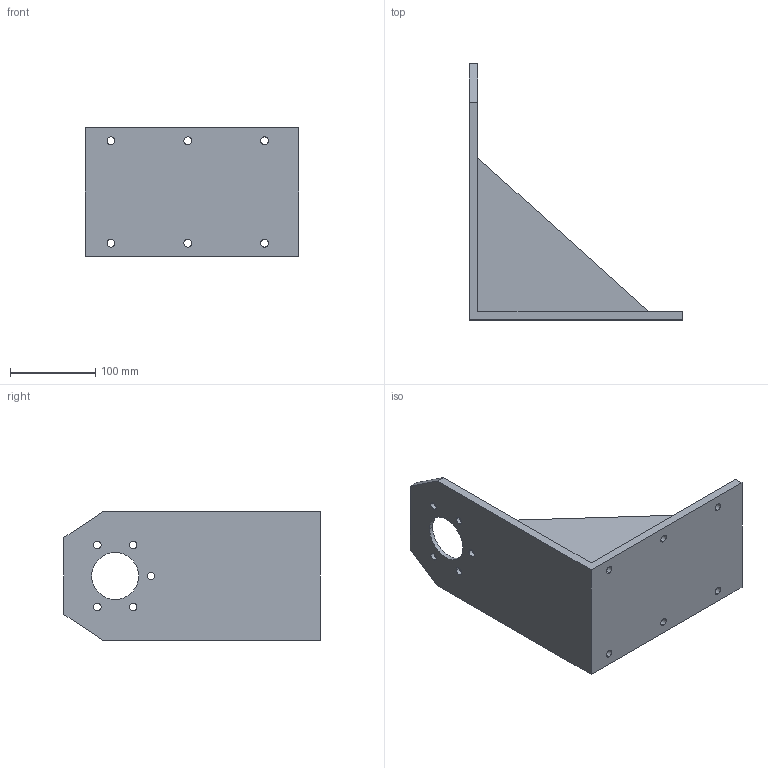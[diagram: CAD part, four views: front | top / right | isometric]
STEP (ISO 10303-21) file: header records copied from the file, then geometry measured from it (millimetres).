
FILE_DESCRIPTION (( 'STEP AP203' ), '1' );
FILE_NAME ('konzola.STEP', '2019-08-06T06:22:36', ( '' ), ( '' ), 'SwSTEP 2.0', 'SolidWorks 2016', '' );
FILE_SCHEMA (( 'CONFIG_CONTROL_DESIGN' ));
Length unit declared in the file: millimetre
Products named in the file (1): konzola
Bounding box: 250 x 300 x 150 mm (x, y, z)
Volume: 1101112.7 mm3; surface area: 241126.4 mm2
Topology: 1 solids, 1 shells, 43 faces, 120 edges, 80 vertices
Faces by surface type: cylinder 26, plane 17
Entity records: 1531 total; most frequent: DIRECTION 260, CARTESIAN_POINT 244, ORIENTED_EDGE 240, EDGE_CURVE 120, AXIS2_PLACEMENT_3D 96, VERTEX_POINT 80, EDGE_LOOP 68, VECTOR 68
